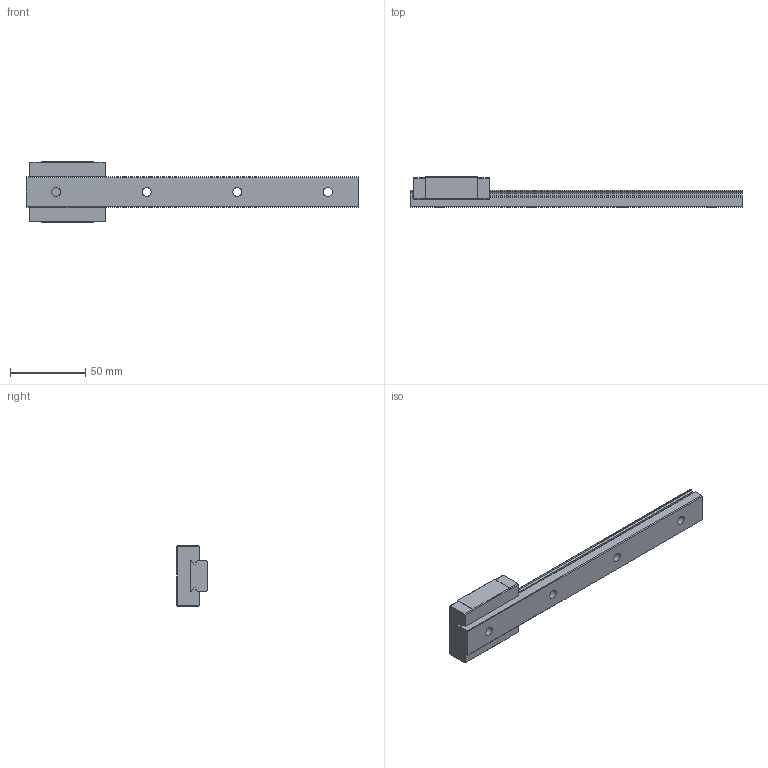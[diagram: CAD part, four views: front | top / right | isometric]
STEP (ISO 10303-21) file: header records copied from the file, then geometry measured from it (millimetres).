
FILE_DESCRIPTION (( 'STEP AP203' ), '1' );
FILE_NAME ('SSEB20-220.step', '2026-06-05T02:28:38', ( 'EC2' ), ( 'Amazon.com' ), 'SwSTEP 2.0', 'SolidWorks 2016', '' );
FILE_SCHEMA (( 'CONFIG_CONTROL_DESIGN' ));
Length unit declared in the file: millimetre
Products named in the file (3): RAIL_SSEB20-220; BLOCK_SSEB20-220; SSEB20-220
Assembly tree (2 placements, depth 2):
  SSEB20-220
    RAIL_SSEB20-220
    BLOCK_SSEB20-220
Bounding box: 220 x 20 x 40 mm (x, y, z)
Volume: 67643 mm3; surface area: 23891.7 mm2
Topology: 2 solids, 2 shells, 94 faces, 254 edges, 168 vertices
Faces by surface type: plane 70, cylinder 20, cone 4
Full cylindrical faces by diameter (mm): 3.242 x4, 6 x4, 9.5 x4
Entity records: 3131 total; most frequent: CARTESIAN_POINT 497, DIRECTION 472, ORIENTED_EDGE 468, EDGE_CURVE 234, LINE 194, VECTOR 194, VERTEX_POINT 164, AXIS2_PLACEMENT_3D 139
